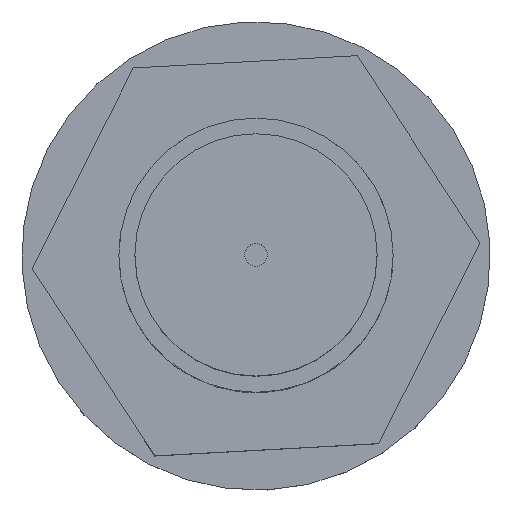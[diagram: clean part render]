
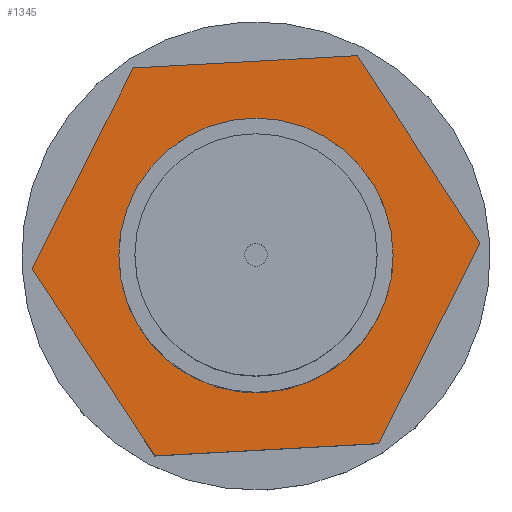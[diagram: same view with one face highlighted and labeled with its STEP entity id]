
A CAD part, top view. The second image highlights one B-rep face of the part: STEP entity #1345.
In plain terms, the highlighted planar face has unit normal (0, 0, 1) as drawn and (1, 0, 0) by its records, which use the part's own axes.
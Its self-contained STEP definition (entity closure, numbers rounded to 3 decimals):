
#18 = DIRECTION ( 'NONE',  ( 0., 0., -1. ) ) ;
#33 = EDGE_CURVE ( 'NONE', #682, #1379, #728, .T. ) ;
#37 = EDGE_CURVE ( 'NONE', #1291, #515, #877, .T. ) ;
#46 = LINE ( 'NONE', #1597, #557 ) ;
#65 = ORIENTED_EDGE ( 'NONE', *, *, #310, .T. ) ;
#70 = CARTESIAN_POINT ( 'NONE',  ( 4., -8.5, 4.907 ) ) ;
#147 = CARTESIAN_POINT ( 'NONE',  ( 4., 8.5, -4.907 ) ) ;
#158 = EDGE_CURVE ( 'NONE', #515, #1291, #1542, .T. ) ;
#159 = LINE ( 'NONE', #1714, #722 ) ;
#196 = AXIS2_PLACEMENT_3D ( 'NONE', #1449, #1267, #1087 ) ;
#209 = DIRECTION ( 'NONE',  ( 1., 0., 0. ) ) ;
#271 = AXIS2_PLACEMENT_3D ( 'NONE', #905, #209, #18 ) ;
#310 = EDGE_CURVE ( 'NONE', #725, #392, #1632, .T. ) ;
#315 = VECTOR ( 'NONE', #401, 1000. ) ;
#369 = EDGE_CURVE ( 'NONE', #1643, #725, #1557, .T. ) ;
#392 = VERTEX_POINT ( 'NONE', #446 ) ;
#401 = DIRECTION ( 'NONE',  ( 0., 0., 1. ) ) ;
#440 = CARTESIAN_POINT ( 'NONE',  ( 4., 0., 6. ) ) ;
#446 = CARTESIAN_POINT ( 'NONE',  ( 4., -8.5, -4.907 ) ) ;
#462 = ORIENTED_EDGE ( 'NONE', *, *, #1265, .T. ) ;
#467 = CARTESIAN_POINT ( 'NONE',  ( 4., 0., 9.815 ) ) ;
#480 = EDGE_CURVE ( 'NONE', #392, #586, #874, .T. ) ;
#515 = VERTEX_POINT ( 'NONE', #1411 ) ;
#538 = DIRECTION ( 'NONE',  ( 0., 0.866, -0.5 ) ) ;
#550 = ORIENTED_EDGE ( 'NONE', *, *, #33, .T. ) ;
#557 = VECTOR ( 'NONE', #1424, 1000. ) ;
#560 = CARTESIAN_POINT ( 'NONE',  ( 4., 8.5, -4.907 ) ) ;
#586 = VERTEX_POINT ( 'NONE', #1550 ) ;
#659 = EDGE_LOOP ( 'NONE', ( #849, #675 ) ) ;
#674 = VECTOR ( 'NONE', #538, 1000. ) ;
#675 = ORIENTED_EDGE ( 'NONE', *, *, #158, .F. ) ;
#682 = VERTEX_POINT ( 'NONE', #147 ) ;
#696 = CARTESIAN_POINT ( 'NONE',  ( 4., -8.5, -4.907 ) ) ;
#722 = VECTOR ( 'NONE', #1522, 1000. ) ;
#725 = VERTEX_POINT ( 'NONE', #70 ) ;
#728 = LINE ( 'NONE', #560, #315 ) ;
#849 = ORIENTED_EDGE ( 'NONE', *, *, #37, .F. ) ;
#874 = LINE ( 'NONE', #696, #674 ) ;
#877 = CIRCLE ( 'NONE', #271, 6. ) ;
#905 = CARTESIAN_POINT ( 'NONE',  ( 4., 0., 0. ) ) ;
#939 = FACE_BOUND ( 'NONE', #659, .T. ) ;
#984 = FACE_OUTER_BOUND ( 'NONE', #1192, .T. ) ;
#1020 = DIRECTION ( 'NONE',  ( 0., -0.866, -0.5 ) ) ;
#1081 = DIRECTION ( 'NONE',  ( 0., 0., -1. ) ) ;
#1085 = EDGE_CURVE ( 'NONE', #586, #682, #46, .T. ) ;
#1087 = DIRECTION ( 'NONE',  ( 0., 0., -1. ) ) ;
#1107 = ORIENTED_EDGE ( 'NONE', *, *, #1085, .T. ) ;
#1122 = AXIS2_PLACEMENT_3D ( 'NONE', #1446, #1260, #1081 ) ;
#1192 = EDGE_LOOP ( 'NONE', ( #1514, #1107, #550, #462, #1717, #65 ) ) ;
#1193 = CARTESIAN_POINT ( 'NONE',  ( 4., 0., 9.815 ) ) ;
#1260 = DIRECTION ( 'NONE',  ( 1., 0., 0. ) ) ;
#1265 = EDGE_CURVE ( 'NONE', #1379, #1643, #159, .T. ) ;
#1267 = DIRECTION ( 'NONE',  ( 1., 0., 0. ) ) ;
#1281 = DIRECTION ( 'NONE',  ( 0., 0., -1. ) ) ;
#1291 = VERTEX_POINT ( 'NONE', #440 ) ;
#1345 = ADVANCED_FACE ( 'NONE', ( #984, #939 ), #1616, .T. ) ;
#1353 = CARTESIAN_POINT ( 'NONE',  ( 4., 8.5, 4.907 ) ) ;
#1379 = VERTEX_POINT ( 'NONE', #1353 ) ;
#1411 = CARTESIAN_POINT ( 'NONE',  ( 4., 0., -6. ) ) ;
#1424 = DIRECTION ( 'NONE',  ( 0., 0.866, 0.5 ) ) ;
#1446 = CARTESIAN_POINT ( 'NONE',  ( 4., 0., 0. ) ) ;
#1449 = CARTESIAN_POINT ( 'NONE',  ( 4., 0., 0. ) ) ;
#1459 = CARTESIAN_POINT ( 'NONE',  ( 4., -8.5, 4.907 ) ) ;
#1514 = ORIENTED_EDGE ( 'NONE', *, *, #480, .T. ) ;
#1522 = DIRECTION ( 'NONE',  ( 0., -0.866, 0.5 ) ) ;
#1540 = VECTOR ( 'NONE', #1281, 1000. ) ;
#1542 = CIRCLE ( 'NONE', #196, 6. ) ;
#1550 = CARTESIAN_POINT ( 'NONE',  ( 4., 0., -9.815 ) ) ;
#1557 = LINE ( 'NONE', #1193, #1700 ) ;
#1597 = CARTESIAN_POINT ( 'NONE',  ( 4., 0., -9.815 ) ) ;
#1616 = PLANE ( 'NONE',  #1122 ) ;
#1632 = LINE ( 'NONE', #1459, #1540 ) ;
#1643 = VERTEX_POINT ( 'NONE', #467 ) ;
#1700 = VECTOR ( 'NONE', #1020, 1000. ) ;
#1714 = CARTESIAN_POINT ( 'NONE',  ( 4., 8.5, 4.907 ) ) ;
#1717 = ORIENTED_EDGE ( 'NONE', *, *, #369, .T. ) ;
